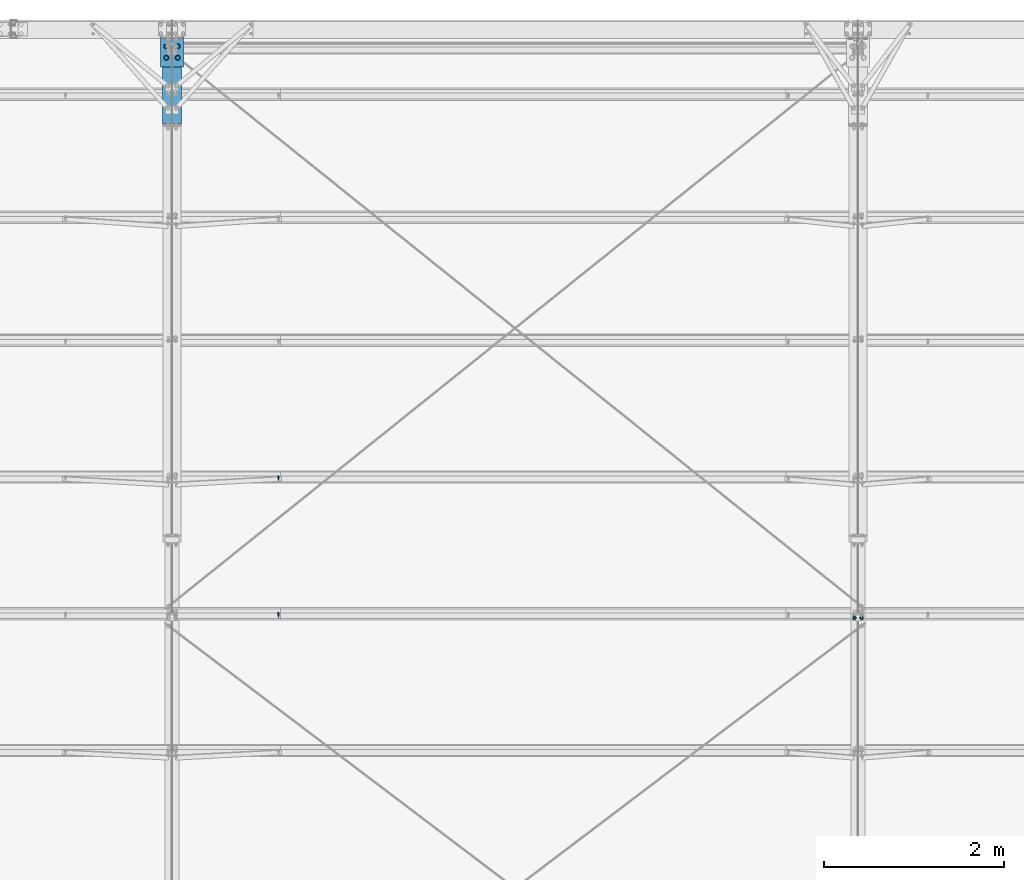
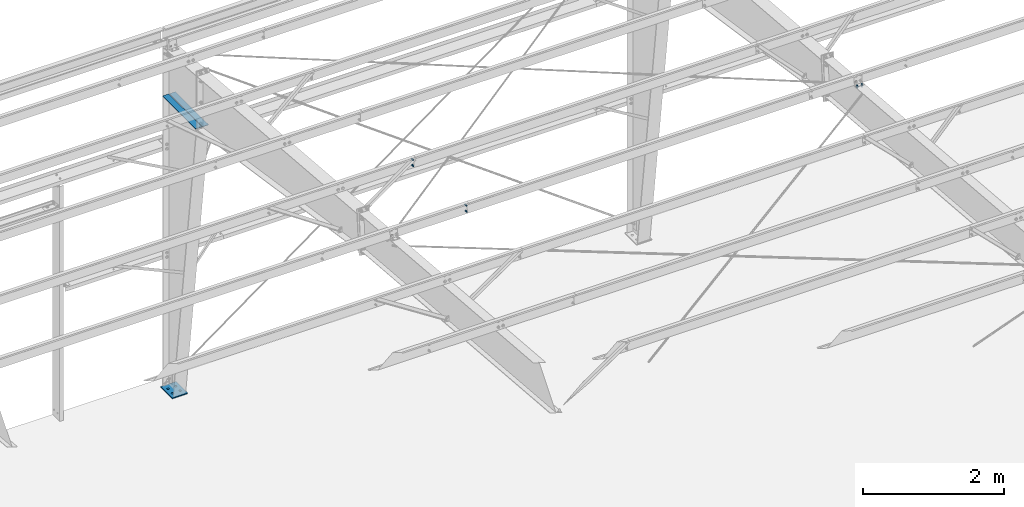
# One storey, part 89 of 185: 4 mechanical fasteners, 3 discrete accessories, 4 elements without a shape of their own.
"""IFC2X3 building model written with IfcOpenShell, lengths in millimetres."""

import ifcopenshell
import ifcopenshell.guid

model = None  # the IFC model being written
_history = None  # IfcOwnerHistory: only IFC2X3 demands one
_inside = {}  # id of a spatial element -> (the spatial element, [elements in it])
_under = {}  # id of a project, library or spatial element -> (it, [spatial elements below it])
_declared = {}  # id of a project -> (the project, [libraries it declares])
_typed = {}  # id of a type object -> (the type object, [elements of that type])
_made_of = {}  # id of a material, layer set ... -> (it, [elements and type objects made of it])


def new_model(schema):
    """Start an empty IFC model of exactly this schema.

    Asked for "IFC4X3", IfcOpenShell would pick the latest addendum, in which some entities
    have other attributes; the version numbers below select the first issue.
    IFC2X3 requires an IfcOwnerHistory on every rooted entity: one is made here for all.
    """
    global model, _history
    if schema == "IFC4X3":
        model = ifcopenshell.file(schema_version=(4, 3, 0, 0))
    else:
        model = ifcopenshell.file(schema=schema)
    _inside.clear()
    _under.clear()
    _declared.clear()
    _typed.clear()
    _made_of.clear()
    _history = None
    if model.schema == "IFC2X3":
        org = make("IfcOrganization", Name="unknown")
        user = make(
            "IfcPersonAndOrganization",
            ThePerson=make("IfcPerson", FamilyName="unknown"),
            TheOrganization=org,
        )
        app = make(
            "IfcApplication",
            ApplicationDeveloper=org,
            Version="unknown",
            ApplicationFullName="unknown",
            ApplicationIdentifier="unknown",
        )
        _history = make(
            "IfcOwnerHistory",
            OwningUser=user,
            OwningApplication=app,
            ChangeAction="ADDED",
            CreationDate=0,
        )
    return model


def make(cls, **values):
    """One entity of the class cls with the attributes given. An attribute that is None is left unset."""
    return model.create_entity(
        cls, **{name: value for name, value in values.items() if value is not None}
    )


def rooted(cls, **values):
    """An entity with a GlobalId (a new one), such as an element, a storey or a relation."""
    return make(cls, GlobalId=ifcopenshell.guid.new(), OwnerHistory=_history, **values)


def si_unit(unit_type, name, prefix=None):
    """IfcSIUnit, for example si_unit("LENGTHUNIT", "METRE", prefix="MILLI")."""
    return make("IfcSIUnit", UnitType=unit_type, Prefix=prefix, Name=name)


def assignment(units):
    """IfcUnitAssignment: the units of a project."""
    return None if units is None else make("IfcUnitAssignment", Units=units)


def point(xyz):
    """IfcCartesianPoint."""
    return None if xyz is None else make("IfcCartesianPoint", Coordinates=xyz)


def direction(xyz):
    """IfcDirection."""
    return None if xyz is None else make("IfcDirection", DirectionRatios=xyz)


def frame(location, z_axis=None, x_axis=None):
    """IfcAxis2Placement3D, a coordinate frame: its origin and axes. An axis left out is left unset."""
    return make(
        "IfcAxis2Placement3D",
        Location=point(location),
        Axis=direction(z_axis),
        RefDirection=direction(x_axis),
    )


def frame_2d(location, x_axis=None):
    """IfcAxis2Placement2D, a coordinate frame in the plane: its origin and x axis."""
    return make(
        "IfcAxis2Placement2D", Location=point(location), RefDirection=direction(x_axis)
    )


def origin_with_axes():
    """The frame at (0, 0, 0) with the z axis (0, 0, 1) and the x axis (1, 0, 0) written out."""
    return frame((0.0, 0.0, 0.0), z_axis=(0.0, 0.0, 1.0), x_axis=(1.0, 0.0, 0.0))


def origin_2d_with_axis():
    """The frame at (0, 0) in the plane with the x axis (1, 0) written out."""
    return frame_2d((0.0, 0.0), x_axis=(1.0, 0.0))


def place(relative_to, where):
    """IfcLocalPlacement: puts the frame where relative to a parent placement (None: the world)."""
    return make(
        "IfcLocalPlacement", PlacementRelTo=relative_to, RelativePlacement=where
    )


def context(
    kind, dimensions, precision=None, world=None, true_north=None, identifier=None
):
    """IfcGeometricRepresentationContext, for example the 3D "Model" context."""
    return make(
        "IfcGeometricRepresentationContext",
        ContextIdentifier=identifier,
        ContextType=kind,
        CoordinateSpaceDimension=dimensions,
        Precision=precision,
        WorldCoordinateSystem=world,
        TrueNorth=true_north,
    )


def subcontext(parent, identifier, kind, view, scale=None):
    """IfcGeometricRepresentationSubContext, for example "Body" below "Model"."""
    return make(
        "IfcGeometricRepresentationSubContext",
        ContextIdentifier=identifier,
        ContextType=kind,
        ParentContext=parent,
        TargetScale=scale,
        TargetView=view,
    )


def project(units=None, contexts=None):
    """IfcProject with its units and contexts."""
    return rooted(
        "IfcProject",
        Name="project",
        RepresentationContexts=contexts,
        UnitsInContext=assignment(units),
    )


def spatial(cls, under=None, at=None, **own):
    """A site, building, storey or space (cls), placed at a placement, below another one or the project."""
    s = rooted(cls, ObjectPlacement=at, **own)
    if under is not None:
        _under.setdefault(under.id(), (under, []))[1].append(s)
    return s


def polyline(points):
    """IfcPolyline through the points."""
    return make("IfcPolyline", Points=[point(p) for p in points])


def profile(cls, at=None, kind="AREA", **sizes):
    """A parametric profile (cls). Its sizes go by their IFC names, for example OverallWidth=200.0."""
    return make(cls, ProfileType=kind, Position=at, **sizes)


def rectangle(**sizes):
    """IfcRectangleProfileDef."""
    return profile("IfcRectangleProfileDef", **sizes)


def circle(**sizes):
    """IfcCircleProfileDef."""
    return profile("IfcCircleProfileDef", **sizes)


def outline(outer, holes=None, kind="AREA"):
    """IfcArbitraryClosedProfileDef: a profile drawn as a closed curve; with holes, ...WithVoids."""
    if holes is None:
        return make("IfcArbitraryClosedProfileDef", ProfileType=kind, OuterCurve=outer)
    return make(
        "IfcArbitraryProfileDefWithVoids",
        ProfileType=kind,
        OuterCurve=outer,
        InnerCurves=holes,
    )


def extrude(swept, where, along, depth):
    """IfcExtrudedAreaSolid: the profile swept, set in the frame where, extruded along a direction by depth."""
    return make(
        "IfcExtrudedAreaSolid",
        SweptArea=swept,
        Position=where,
        ExtrudedDirection=direction(along),
        Depth=depth,
    )


def shape(context_of_items, identifier, shape_type, items):
    """IfcShapeRepresentation: the items that make up one representation, for example the "Body"."""
    return make(
        "IfcShapeRepresentation",
        ContextOfItems=context_of_items,
        RepresentationIdentifier=identifier,
        RepresentationType=shape_type,
        Items=items,
    )


def source(mapping_origin, context_of_items, identifier, shape_type, items):
    """IfcRepresentationMap: a shape defined once, which mapped items show again and again."""
    return make(
        "IfcRepresentationMap",
        MappingOrigin=mapping_origin,
        MappedRepresentation=shape(context_of_items, identifier, shape_type, items),
    )


def transform(
    local_origin,
    x_axis=None,
    y_axis=None,
    z_axis=None,
    scale=None,
    scale2=None,
    scale3=None,
    uniform=True,
):
    """IfcCartesianTransformationOperator3D, or its non-uniform kind. x_axis, y_axis, z_axis: its Axis1, 2, 3."""
    if uniform:
        return make(
            "IfcCartesianTransformationOperator3D",
            Axis1=direction(x_axis),
            Axis2=direction(y_axis),
            LocalOrigin=point(local_origin),
            Scale=scale,
            Axis3=direction(z_axis),
        )
    return make(
        "IfcCartesianTransformationOperator3DnonUniform",
        Axis1=direction(x_axis),
        Axis2=direction(y_axis),
        LocalOrigin=point(local_origin),
        Scale=scale,
        Axis3=direction(z_axis),
        Scale2=scale2,
        Scale3=scale3,
    )


def mapped(mapping_source, mapping_target):
    """IfcMappedItem: shows the shape of a source again, moved by a transform."""
    return make(
        "IfcMappedItem", MappingSource=mapping_source, MappingTarget=mapping_target
    )


def material(Name=None, Category=None):
    """IfcMaterial."""
    return make("IfcMaterial", Name=Name, Category=Category)


def made_of(thing, what):
    """Note that an element or type object is made of a material, layer set ...; save() writes the relation."""
    if what is not None:
        _made_of.setdefault(what.id(), (what, []))[1].append(thing)
    return thing


def type_object(cls, material=None, **own):
    """A type object (cls), such as IfcWallType, which elements share."""
    return made_of(rooted(cls, **own), material)


def element(
    cls,
    number,
    at=None,
    inside=None,
    cuts=None,
    type_object=None,
    material=None,
    context=None,
    identifier="Body",
    shape_type=None,
    held_by="IfcProductDefinitionShape",
    body=None,
    shapes=None,
    **own,
):
    """One element of the class cls, such as IfcWall. Its Tag is "e" and its number.

    at: its placement. inside: the storey or other place that contains it. cuts: it is an
    opening in that element (IfcRelVoidsElement). A single representation is given by context,
    identifier, shape_type and body (its items); several are given by shapes. held_by: the class
    of the entity that holds the representations. save() writes the other relations.
    """
    e = rooted(cls, Tag="e%d" % number, ObjectPlacement=at, **own)
    if body is not None:
        shapes = [shape(context, identifier, shape_type, body)]
    if shapes is not None:
        e.Representation = make(held_by, Representations=shapes)
    if inside is not None:
        _inside.setdefault(inside.id(), (inside, []))[1].append(e)
    if cuts is not None:
        rooted(
            "IfcRelVoidsElement", RelatingBuildingElement=cuts, RelatedOpeningElement=e
        )
    if type_object is not None:
        _typed.setdefault(type_object.id(), (type_object, []))[1].append(e)
    return made_of(e, material)


def aggregate(whole, parts):
    """IfcRelAggregates: a whole, such as a stair, and the parts it consists of."""
    return rooted("IfcRelAggregates", RelatingObject=whole, RelatedObjects=parts)


def save(model, path):
    """Write the relations noted so far, then the file.

    IfcRelAggregates (storeys below a building ...), IfcRelContainedInSpatialStructure (elements
    in a storey), IfcRelDefinesByType, IfcRelAssociatesMaterial and IfcRelDeclares: one each for
    every whole, place, type object, material and project.
    """
    for whole, parts in _under.values():
        aggregate(whole, parts)
    for where, things in _inside.values():
        rooted(
            "IfcRelContainedInSpatialStructure",
            RelatedElements=things,
            RelatingStructure=where,
        )
    for kind, things in _typed.values():
        rooted("IfcRelDefinesByType", RelatedObjects=things, RelatingType=kind)
    for what, things in _made_of.values():
        rooted("IfcRelAssociatesMaterial", RelatedObjects=things, RelatingMaterial=what)
    for by, libraries in _declared.values():
        rooted("IfcRelDeclares", RelatingContext=by, RelatedDefinitions=libraries)
    model.write(path)


model = new_model("IFC2X3")

# Units and contexts
model_context = context("Model", 3, precision=1e-05, world=origin_with_axes())
body_context = subcontext(model_context, "Body", "Model", "MODEL_VIEW")
ifc_project = project(units=[si_unit("LENGTHUNIT", "METRE", prefix="MILLI"), si_unit("AREAUNIT", "SQUARE_METRE"), si_unit("VOLUMEUNIT", "CUBIC_METRE"), si_unit("MASSUNIT", "GRAM", prefix="KILO"), si_unit("TIMEUNIT", "SECOND"), si_unit("PLANEANGLEUNIT", "RADIAN"), si_unit("SOLIDANGLEUNIT", "STERADIAN"), si_unit("THERMODYNAMICTEMPERATUREUNIT", "DEGREE_CELSIUS"), si_unit("LUMINOUSINTENSITYUNIT", "LUMEN")], contexts=[model_context])

# Site, building, storey
site_placement = place(None, origin_with_axes())
site = spatial("IfcSite", under=ifc_project, at=site_placement, Name="Undefined", CompositionType="ELEMENT")
building_placement = place(site_placement, origin_with_axes())
building = spatial("IfcBuilding", under=site, at=building_placement, Name="Undefined", CompositionType="ELEMENT")
storey_placement = place(building_placement, origin_with_axes())
storey = spatial("IfcBuildingStorey", under=building, at=storey_placement, Name="Undefined", CompositionType="ELEMENT", Elevation=0.0)

# Assembly, discrete accessories
assembly_1_placement = place(storey_placement, origin_with_axes())
assembly_1 = element("IfcElementAssembly", 1, at=assembly_1_placement, inside=storey, Name="Steel Assembly", AssemblyPlace="NOTDEFINED", PredefinedType="RIGID_FRAME")
ifc_material_1 = material(Name="STEEL/55")
discrete_accessory_type_1 = type_object("IfcDiscreteAccessoryType", Name="Stiff")
discrete_accessory_1_placement = place(assembly_1_placement, frame((7184.23125, 31792.926, 5059.01498446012), z_axis=(1.0, 0.0, 0.0), x_axis=(0.0, -1.0, 0.0)))
discrete_accessory_1 = element("IfcDiscreteAccessory", 2, at=discrete_accessory_1_placement, type_object=discrete_accessory_type_1, material=ifc_material_1, Name="Stiff", ObjectType="FL3/8\"X4\"", context=body_context, shape_type="SweptSolid", body=[
    extrude(rectangle(XDim=9.525, YDim=101.6, at=origin_2d_with_axis()), frame((939.799999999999, 0.0, 0.0), z_axis=(-1.0, 0.0, 0.0), x_axis=(0.0, -1.0, 0.0)), (0.0, 0.0, 1.0), 939.8),
])
discrete_accessory_2_placement = place(assembly_1_placement, frame((7293.76875, 31792.926, 5059.01498446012), z_axis=(1.0, 0.0, 0.0), x_axis=(0.0, -1.0, 0.0)))
discrete_accessory_2 = element("IfcDiscreteAccessory", 3, at=discrete_accessory_2_placement, type_object=discrete_accessory_type_1, material=ifc_material_1, Name="Stiff", ObjectType="FL3/8\"X4\"", context=body_context, shape_type="SweptSolid", body=[
    extrude(rectangle(XDim=9.525, YDim=101.6, at=origin_2d_with_axis()), frame((939.799999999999, 0.0, 0.0), z_axis=(-1.0, 0.0, 0.0), x_axis=(0.0, -1.0, 0.0)), (0.0, 0.0, 1.0), 939.8),
])
discrete_accessory_type_2 = type_object("IfcDiscreteAccessoryType", Name="Base Plate")
discrete_accessory_3_placement = place(assembly_1_placement, frame((7239.0, 31813.4999998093, 7.93750000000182), z_axis=(-1.0, 0.0, 0.0), x_axis=(0.0, -1.0, 0.0)))
discrete_accessory_3 = element("IfcDiscreteAccessory", 4, at=discrete_accessory_3_placement, type_object=discrete_accessory_type_2, material=ifc_material_1, Name="Base Plate", ObjectType="FL5/8\"X10\"", context=body_context, shape_type="SweptSolid", body=[
    extrude(rectangle(XDim=15.875, YDim=254.0, at=origin_2d_with_axis()), frame((330.309933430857, 0.0, 0.0), z_axis=(-1.0, 0.0, 0.0), x_axis=(0.0, -1.0, 0.0)), (0.0, 0.0, 1.0), 330.3),
])

# Assembly, mechanical fastener
assembly_2_placement = place(storey_placement, origin_with_axes())
assembly_2 = element("IfcElementAssembly", 5, at=assembly_2_placement, inside=storey, Name="Steel Assembly", AssemblyPlace="NOTDEFINED", PredefinedType="RIGID_FRAME")
ifc_material_2 = material(Name="Undefined")
discrete_accessory_type_3 = type_object("IfcDiscreteAccessoryType", Name="Bolt assembly")
shared_shape_1 = source(origin_with_axes(), body_context, "Body", "SweptSolid", [
    extrude(circle(Radius=7.14374971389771, at=origin_2d_with_axis()), frame((0.0, -4.65999985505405, 0.0), z_axis=(0.0, 1.0, 0.0), x_axis=(1.0, 0.0, 0.0)), (0.0, 0.0, 1.0), 4.8),
    extrude(circle(Radius=7.14374971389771, at=origin_2d_with_axis()), frame((0.0, -0.0238014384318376, 0.0), z_axis=(0.0, 1.0, 0.0), x_axis=(1.0, 0.0, 0.0)), (0.0, 0.0, 1.0), 8.0),
    extrude(outline(polyline([(12.8316099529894, 0.0), (6.4158049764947, 11.1125001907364), (-6.4158049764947, 11.1125001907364), (-12.8316099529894, 0.0), (-6.4158049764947, -11.1125001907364), (6.4158049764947, -11.1125001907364), (12.8316099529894, 0.0)])), frame((0.0, -12.697499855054, 0.0), z_axis=(0.0, 1.0, 0.0), x_axis=(1.0, 0.0, 0.0)), (0.0, 0.0, 1.0), 7.9),
    extrude(circle(Radius=6.34999990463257, at=origin_2d_with_axis()), frame((0.0, -4.75999985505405, 0.0), z_axis=(0.0, 1.0, 0.0), x_axis=(1.0, 0.0, 0.0)), (0.0, 0.0, 1.0), 50.8),
    extrude(circle(Radius=22.2250003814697, at=origin_2d_with_axis()), frame((0.0, 7.95019856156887, 0.0), z_axis=(0.0, 1.0, 0.0), x_axis=(1.0, 0.0, 0.0)), (0.0, 0.0, 1.0), 7.9),
    extrude(outline(polyline([(12.8316099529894, 0.0), (6.4158049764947, 11.1125001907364), (-6.4158049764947, 11.1125001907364), (-12.8316099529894, 0.0), (-6.4158049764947, -11.1125001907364), (6.4158049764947, -11.1125001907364), (12.8316099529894, 0.0)])), frame((0.0, 15.8876985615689, 0.0), z_axis=(0.0, 1.0, 0.0), x_axis=(1.0, 0.0, 0.0)), (0.0, 0.0, 1.0), 12.3),
])
mechanical_fastener_1_placement = place(assembly_2_placement, frame((14859.0, 25363.317901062, 6445.48584115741), z_axis=(1.0, 0.0, 0.0), x_axis=(0.0, -0.996545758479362, 0.0830454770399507)))
mechanical_fastener_1 = element("IfcMechanicalFastener", 6, at=mechanical_fastener_1_placement, type_object=discrete_accessory_type_3, material=ifc_material_2, Name="Bolt assembly", NominalDiameter=12.6999998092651, NominalLength=50.7999992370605, context=body_context, shape_type="MappedRepresentation", body=[
    mapped(shared_shape_1, transform((0.0, 0.0, -38.0999984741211))),
    mapped(shared_shape_1, transform((0.0, 0.0, 38.0999984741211))),
])
aggregate(assembly_2, [mechanical_fastener_1])

assembly_3_placement = place(storey_placement, origin_with_axes())
assembly_3 = element("IfcElementAssembly", 7, at=assembly_3_placement, inside=storey, Name="Steel Assembly", AssemblyPlace="NOTDEFINED", PredefinedType="RIGID_FRAME")
shared_shape_2 = source(origin_with_axes(), body_context, "Body", "SweptSolid", [
    extrude(circle(Radius=7.14374971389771, at=origin_2d_with_axis()), frame((0.0, -1.4900000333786, 0.0), z_axis=(0.0, 1.0, 0.0), x_axis=(1.0, 0.0, 0.0)), (0.0, 0.0, 1.0), 3.2),
    extrude(circle(Radius=7.14374971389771, at=origin_2d_with_axis()), frame((0.0, -1.4900000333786, 0.0), z_axis=(0.0, 1.0, 0.0), x_axis=(1.0, 0.0, 0.0)), (0.0, 0.0, 1.0), 3.2),
    extrude(outline(polyline([(10.9985221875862, 0.0), (5.4992610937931, 9.52499961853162), (-5.4992610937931, 9.52499961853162), (-10.9985221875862, 0.0), (-5.4992610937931, -9.52499961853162), (5.4992610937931, -9.52499961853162), (10.9985221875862, 0.0)])), frame((0.0, -11.1149996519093, 0.0), z_axis=(0.0, 1.0, 0.0), x_axis=(1.0, 0.0, 0.0)), (0.0, 0.0, 1.0), 9.5),
    extrude(circle(Radius=6.34999990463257, at=origin_2d_with_axis()), frame((0.0, -1.59000001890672, 0.0), z_axis=(0.0, 1.0, 0.0), x_axis=(1.0, 0.0, 0.0)), (0.0, 0.0, 1.0), 38.1),
    extrude(outline(polyline([(12.8316099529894, 0.0), (6.4158049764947, 11.1125001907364), (-6.4158049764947, 11.1125001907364), (-12.8316099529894, 0.0), (-6.4158049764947, -11.1125001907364), (6.4158049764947, -11.1125001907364), (12.8316099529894, 0.0)])), frame((0.0, 1.5900000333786, 0.0), z_axis=(0.0, 1.0, 0.0), x_axis=(1.0, 0.0, 0.0)), (0.0, 0.0, 1.0), 12.3),
])
mechanical_fastener_2_placement = place(assembly_3_placement, frame((8420.1, 25413.9424255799, 6594.1953819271), z_axis=(-1.0, 0.0, 0.0), x_axis=(0.0, -0.0830454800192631, -0.996545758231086)))
mechanical_fastener_2 = element("IfcMechanicalFastener", 8, at=mechanical_fastener_2_placement, type_object=discrete_accessory_type_3, material=ifc_material_2, Name="Bolt assembly", NominalDiameter=12.6999998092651, NominalLength=38.0999984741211, context=body_context, shape_type="MappedRepresentation", body=[
    mapped(shared_shape_2, transform((0.0, 0.0, 0.0))),
    mapped(shared_shape_2, transform((101.599998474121, 0.0, 0.0))),
])
aggregate(assembly_3, [mechanical_fastener_2])

assembly_4_placement = place(storey_placement, origin_with_axes())
assembly_4 = element("IfcElementAssembly", 9, at=assembly_4_placement, inside=storey, Name="Steel Assembly", AssemblyPlace="NOTDEFINED", PredefinedType="RIGID_FRAME")
mechanical_fastener_3_placement = place(assembly_4_placement, frame((8420.1, 26932.6781611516, 6467.63407038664), z_axis=(-1.0, 0.0, 0.0), x_axis=(0.0, -0.0830454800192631, -0.996545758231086)))
mechanical_fastener_3 = element("IfcMechanicalFastener", 10, at=mechanical_fastener_3_placement, type_object=discrete_accessory_type_3, material=ifc_material_2, Name="Bolt assembly", NominalDiameter=12.6999998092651, NominalLength=38.0999984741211, context=body_context, shape_type="MappedRepresentation", body=[
    mapped(shared_shape_2, transform((0.0, 0.0, 0.0))),
    mapped(shared_shape_2, transform((101.599998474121, 0.0, 0.0))),
])
aggregate(assembly_4, [mechanical_fastener_3])

# Mechanical fastener
ifc_material_3 = material(Name="7990")
shared_shape_3 = source(origin_with_axes(), body_context, "Body", "SweptSolid", [
    extrude(circle(Radius=18.2562503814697, at=origin_2d_with_axis()), frame((0.0, -15.8750000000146, 0.0), z_axis=(0.0, 1.0, 0.0), x_axis=(1.0, 0.0, 0.0)), (0.0, 0.0, 1.0), 16.0),
    extrude(circle(Radius=28.575, at=origin_2d_with_axis()), frame((0.0, 0.0, 0.0), z_axis=(0.0, 1.0, 0.0), x_axis=(1.0, 0.0, 0.0)), (0.0, 0.0, 1.0), 10.5),
    extrude(outline(polyline([(30.4292459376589, 0.0), (15.2146229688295, 26.3525000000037), (-15.2146229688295, 26.3525000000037), (-30.4292459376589, 0.0), (-15.2146229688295, -26.3525000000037), (15.2146229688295, -26.3525000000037), (30.4292459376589, 0.0)])), frame((0.0, 10.4775, 0.0), z_axis=(0.0, 1.0, 0.0), x_axis=(1.0, 0.0, 0.0)), (0.0, 0.0, 1.0), 21.0),
])
mechanical_fastener_4_placement = place(assembly_1_placement, frame((7239.0, 31711.8999984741, 1.81898940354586e-12), z_axis=(1.0, 0.0, 0.0), x_axis=(0.0, -1.0, 0.0)))
mechanical_fastener_4 = element("IfcMechanicalFastener", 11, at=mechanical_fastener_4_placement, type_object=discrete_accessory_type_3, material=ifc_material_3, Name="Bolt assembly", NominalDiameter=31.75, NominalLength=15.875, context=body_context, shape_type="MappedRepresentation", body=[
    mapped(shared_shape_3, transform((0.0, 0.0, -63.5))),
    mapped(shared_shape_3, transform((127.0, 0.0, -63.5))),
    mapped(shared_shape_3, transform((0.0, 0.0, 63.5))),
    mapped(shared_shape_3, transform((127.0, 0.0, 63.5))),
])

aggregate(assembly_1, [mechanical_fastener_4, discrete_accessory_1, discrete_accessory_2, discrete_accessory_3])

save(model, "model.ifc")
